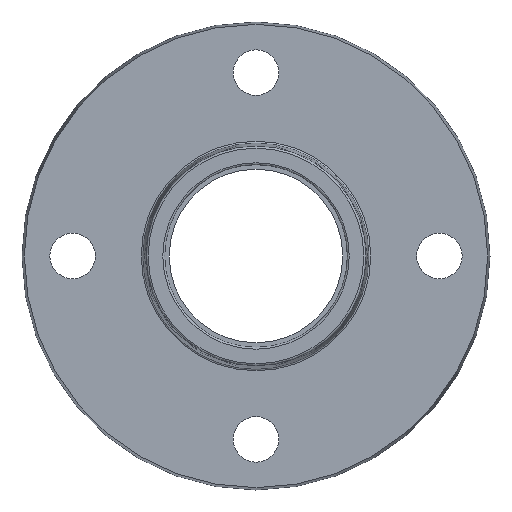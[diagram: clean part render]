
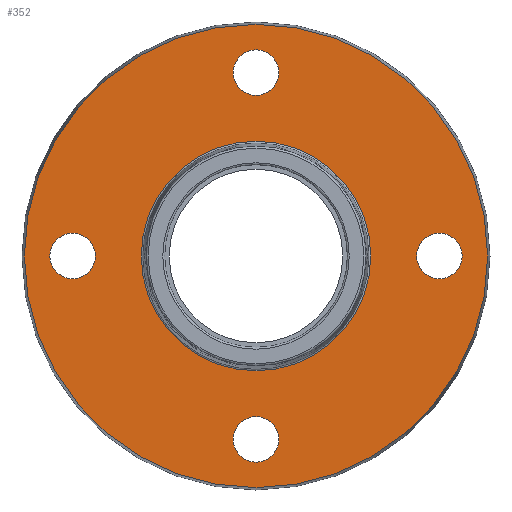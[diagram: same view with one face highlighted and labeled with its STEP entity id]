
A CAD part, left-side view. The second image highlights one B-rep face of the part: STEP entity #352.
In plain terms, the highlighted planar face has unit normal (-1, 0, 0).
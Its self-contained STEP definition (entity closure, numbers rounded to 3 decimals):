
#29=PLANE('',#409);
#56=FACE_BOUND('',#142,.T.);
#57=FACE_BOUND('',#143,.T.);
#58=FACE_BOUND('',#144,.T.);
#59=FACE_BOUND('',#145,.T.);
#60=FACE_BOUND('',#146,.T.);
#88=FACE_OUTER_BOUND('',#141,.T.);
#141=EDGE_LOOP('',(#301));
#142=EDGE_LOOP('',(#302));
#143=EDGE_LOOP('',(#303));
#144=EDGE_LOOP('',(#304));
#145=EDGE_LOOP('',(#305));
#146=EDGE_LOOP('',(#306));
#185=CIRCLE('',#408,45.387);
#186=CIRCLE('',#410,91.575);
#187=CIRCLE('',#411,9.);
#188=CIRCLE('',#412,9.);
#189=CIRCLE('',#413,9.);
#190=CIRCLE('',#414,9.);
#217=VERTEX_POINT('',#617);
#218=VERTEX_POINT('',#620);
#219=VERTEX_POINT('',#622);
#220=VERTEX_POINT('',#624);
#221=VERTEX_POINT('',#626);
#222=VERTEX_POINT('',#628);
#249=EDGE_CURVE('',#217,#217,#185,.T.);
#250=EDGE_CURVE('',#218,#218,#186,.T.);
#251=EDGE_CURVE('',#219,#219,#187,.T.);
#252=EDGE_CURVE('',#220,#220,#188,.T.);
#253=EDGE_CURVE('',#221,#221,#189,.T.);
#254=EDGE_CURVE('',#222,#222,#190,.T.);
#301=ORIENTED_EDGE('',*,*,#250,.T.);
#302=ORIENTED_EDGE('',*,*,#251,.T.);
#303=ORIENTED_EDGE('',*,*,#252,.T.);
#304=ORIENTED_EDGE('',*,*,#253,.T.);
#305=ORIENTED_EDGE('',*,*,#254,.T.);
#306=ORIENTED_EDGE('',*,*,#249,.F.);
#352=ADVANCED_FACE('',(#88,#56,#57,#58,#59,#60),#29,.T.);
#408=AXIS2_PLACEMENT_3D('',#618,#517,#518);
#409=AXIS2_PLACEMENT_3D('',#619,#519,#520);
#410=AXIS2_PLACEMENT_3D('',#621,#521,#522);
#411=AXIS2_PLACEMENT_3D('',#623,#523,#524);
#412=AXIS2_PLACEMENT_3D('',#625,#525,#526);
#413=AXIS2_PLACEMENT_3D('',#627,#527,#528);
#414=AXIS2_PLACEMENT_3D('',#629,#529,#530);
#517=DIRECTION('center_axis',(-1.,0.,0.));
#518=DIRECTION('ref_axis',(0.,1.,0.));
#519=DIRECTION('center_axis',(-1.,0.,0.));
#520=DIRECTION('ref_axis',(0.,0.,1.));
#521=DIRECTION('center_axis',(-1.,0.,0.));
#522=DIRECTION('ref_axis',(0.,0.,1.));
#523=DIRECTION('center_axis',(1.,0.,0.));
#524=DIRECTION('ref_axis',(0.,0.,1.));
#525=DIRECTION('center_axis',(1.,0.,0.));
#526=DIRECTION('ref_axis',(0.,1.,0.));
#527=DIRECTION('center_axis',(1.,0.,0.));
#528=DIRECTION('ref_axis',(0.,0.,-1.));
#529=DIRECTION('center_axis',(1.,0.,0.));
#530=DIRECTION('ref_axis',(0.,-1.,0.));
#617=CARTESIAN_POINT('',(4.5,-45.387,0.));
#618=CARTESIAN_POINT('Origin',(4.5,0.,0.));
#619=CARTESIAN_POINT('Origin',(4.5,-44.699,0.));
#620=CARTESIAN_POINT('',(4.5,-91.575,0.));
#621=CARTESIAN_POINT('Origin',(4.5,0.,0.));
#622=CARTESIAN_POINT('',(4.5,72.5,-9.));
#623=CARTESIAN_POINT('Origin',(4.5,72.5,0.));
#624=CARTESIAN_POINT('',(4.5,-9.,-72.5));
#625=CARTESIAN_POINT('Origin',(4.5,0.,-72.5));
#626=CARTESIAN_POINT('',(4.5,-72.5,9.));
#627=CARTESIAN_POINT('Origin',(4.5,-72.5,0.));
#628=CARTESIAN_POINT('',(4.5,9.,72.5));
#629=CARTESIAN_POINT('Origin',(4.5,0.,72.5));
